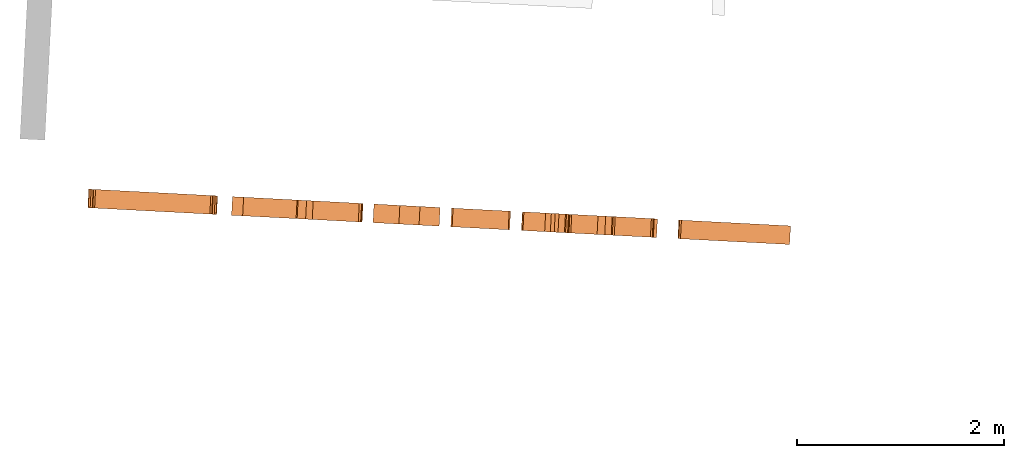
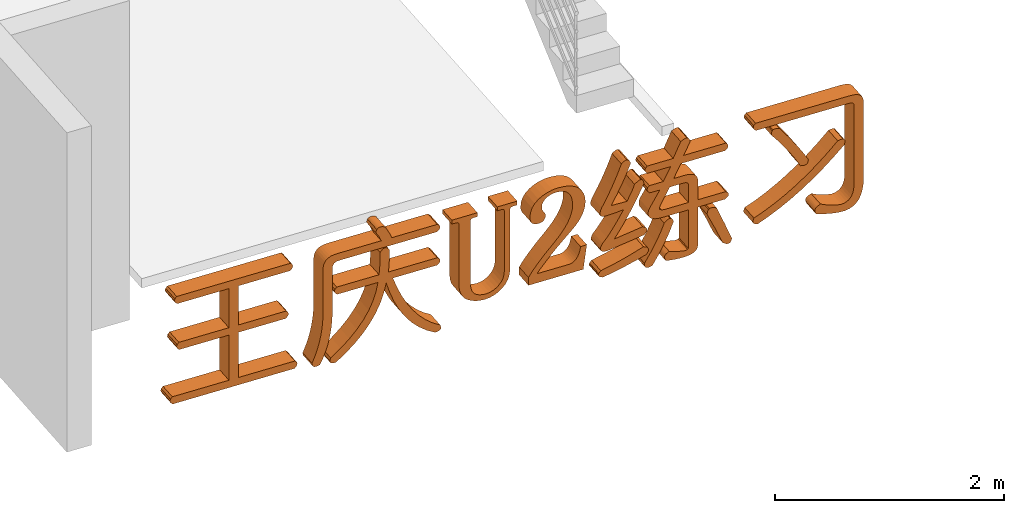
# One storey, part 16 of 16: 1 proxy.
"""IFC2X3 building model written with IfcOpenShell, lengths in millimetres."""

from ifc_helpers import new_model, entity, si_unit, converted_unit, derived_unit, direction, frame, origin, place, context, subcontext, project, spatial, polyline, outline, extrude, element, save


model = new_model("IFC2X3")

# Units and contexts
model_context = context("Model", 3, precision=0.01, world=origin(), true_north=direction((6.12303176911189e-17, 1.0)))
body_context = subcontext(model_context, "Body", "Model", "MODEL_VIEW")
ifc_project = project(units=[si_unit("LENGTHUNIT", "METRE", prefix="MILLI"), si_unit("AREAUNIT", "SQUARE_METRE"), si_unit("VOLUMEUNIT", "CUBIC_METRE"), converted_unit("PLANEANGLEUNIT", "DEGREE", entity("IfcRatioMeasure", 0.0174532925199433), si_unit("PLANEANGLEUNIT", "RADIAN"), dimensions=[0, 0, 0, 0, 0, 0, 0]), si_unit("MASSUNIT", "GRAM", prefix="KILO"), derived_unit("MASSDENSITYUNIT", [(si_unit("MASSUNIT", "GRAM", prefix="KILO"), 1), (si_unit("LENGTHUNIT", "METRE"), -3)]), si_unit("TIMEUNIT", "SECOND"), si_unit("FREQUENCYUNIT", "HERTZ"), si_unit("THERMODYNAMICTEMPERATUREUNIT", "DEGREE_CELSIUS"), derived_unit("THERMALTRANSMITTANCEUNIT", [(si_unit("MASSUNIT", "GRAM", prefix="KILO"), 1), (si_unit("THERMODYNAMICTEMPERATUREUNIT", "KELVIN"), -1), (si_unit("TIMEUNIT", "SECOND"), -3)]), derived_unit("VOLUMETRICFLOWRATEUNIT", [(si_unit("LENGTHUNIT", "METRE"), 3), (si_unit("TIMEUNIT", "SECOND"), -1)]), si_unit("ELECTRICCURRENTUNIT", "AMPERE"), si_unit("ELECTRICVOLTAGEUNIT", "VOLT"), si_unit("POWERUNIT", "WATT"), si_unit("FORCEUNIT", "NEWTON", prefix="KILO"), si_unit("ILLUMINANCEUNIT", "LUX"), si_unit("LUMINOUSFLUXUNIT", "LUMEN"), si_unit("LUMINOUSINTENSITYUNIT", "CANDELA"), derived_unit("USERDEFINED", [(si_unit("MASSUNIT", "GRAM", prefix="KILO"), -1), (si_unit("LENGTHUNIT", "METRE"), -2), (si_unit("TIMEUNIT", "SECOND"), 3), (si_unit("LUMINOUSFLUXUNIT", "LUMEN"), 1)]), derived_unit("LINEARVELOCITYUNIT", [(si_unit("LENGTHUNIT", "METRE"), 1), (si_unit("TIMEUNIT", "SECOND"), -1)]), si_unit("PRESSUREUNIT", "PASCAL"), derived_unit("USERDEFINED", [(si_unit("LENGTHUNIT", "METRE"), -2), (si_unit("MASSUNIT", "GRAM", prefix="KILO"), 1), (si_unit("TIMEUNIT", "SECOND"), -2)])], contexts=[model_context])

# Site, building, storey
site_placement = place(None, origin())
site = spatial("IfcSite", under=ifc_project, at=site_placement, Name="表面", CompositionType="ELEMENT")
building_placement = place(site_placement, origin())
building = spatial("IfcBuilding", under=site, at=building_placement, CompositionType="ELEMENT")
storey_placement = place(building_placement, frame((0.0, 0.0, 3000.0)))
storey = spatial("IfcBuildingStorey", under=building, at=storey_placement, Name="2F", CompositionType="ELEMENT", Elevation=3000.00000000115)

# Proxy
proxy_placement = place(storey_placement, origin())
element("IfcBuildingElementProxy", 1, at=proxy_placement, inside=storey, Name="模型文字:600mm Arial", ObjectType="模型文字:600mm Arial", context=body_context, shape_type="SweptSolid", body=[
    extrude(outline(polyline([(-554.261115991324, -554.191770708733), (559.770134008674, -554.191770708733), (577.822069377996, -535.107519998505), (583.29605730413, -515.670108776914), (576.192097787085, -495.87953704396), (556.51019082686, -475.735804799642), (49.0457021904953, -475.735804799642), (49.0457021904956, -59.3323957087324), (516.738884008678, -59.3323957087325), (534.790819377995, -40.2481449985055), (540.264807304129, -20.8107337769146), (533.160847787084, -1.02016204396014), (513.478940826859, 19.1235702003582), (49.0457021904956, 19.1235702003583), (49.0457021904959, 500.073854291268), (602.801384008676, 500.073854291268), (620.853319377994, 519.158105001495), (626.327307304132, 538.595516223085), (619.223347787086, 558.38608795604), (599.541440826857, 578.529820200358), (-593.815093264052, 578.529820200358), (-613.510583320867, 558.386087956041), (-620.655292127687, 538.595516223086), (-615.249219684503, 519.158105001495), (-597.292365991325, 500.073854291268), (-43.3193546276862, 500.073854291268), (-43.3193546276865, 19.1235702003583), (-529.26821826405, 19.1235702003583), (-548.96370832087, -1.02016204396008), (-556.108417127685, -20.8107337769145), (-550.702344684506, -40.2481449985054), (-532.745490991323, -59.3323957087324), (-43.3193546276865, -59.3323957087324), (-43.3193546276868, -475.735804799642), (-550.783843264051, -475.735804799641), (-570.479333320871, -495.87953704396), (-577.624042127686, -515.670108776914), (-572.217969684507, -535.107519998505), (-554.261115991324, -554.191770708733)])), frame((-25983.7933146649, -1529.46362849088, 857.213136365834), z_axis=(0.0523359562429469, 0.998629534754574, 0.0), x_axis=(0.998629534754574, -0.0523359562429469, 0.0)), (0.0, 0.0, 1.0), 180.0),
    extrude(outline(polyline([(-300.908917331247, -533.948927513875), (-207.279821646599, -533.948927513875), (-150.41816517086, -528.360519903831), (53.9838462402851, -923.985651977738), (81.3922286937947, -935.280936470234), (92.5072160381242, -935.672976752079), (101.896067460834, -932.561282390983), (109.558782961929, -925.945853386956), (115.495362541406, -915.82668973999), (122.190113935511, -885.077158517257), (-318.935163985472, -31.2683083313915), (-327.883251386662, -5.60411989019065), (-326.496293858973, 16.7462236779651), (-314.774291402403, 35.7827223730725), (-292.717244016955, 51.5053761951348), (127.439360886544, 268.046604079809), (201.049922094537, 310.588145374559), (269.290431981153, 355.400548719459), (332.160890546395, 402.483814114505), (389.661297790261, 451.8379415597), (441.791653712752, 503.462931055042), (488.551958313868, 557.358782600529), (529.942211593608, 613.525496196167), (520.952159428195, 647.408709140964), (514.275874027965, 659.095358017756), (506.145415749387, 667.27870183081), (496.560784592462, 671.958740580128), (485.521980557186, 673.135474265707), (459.081853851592, 664.979026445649), (415.728380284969, 611.524668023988), (368.347877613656, 560.538163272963), (316.940345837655, 512.019512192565), (261.505784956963, 465.968714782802), (202.044194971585, 422.385771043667), (138.555575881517, 381.270680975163), (71.0399276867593, 342.623444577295), (-344.574972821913, 128.677158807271), (-370.506365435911, 112.951823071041), (-390.955172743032, 95.4036330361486), (-405.921394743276, 76.0325887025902), (-415.405031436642, 54.8386900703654), (-419.406082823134, 31.8219371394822), (-417.924548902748, 6.9823299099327), (-410.960429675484, -19.6801316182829), (-398.513725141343, -48.1654474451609), (-197.503450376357, -437.225789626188), (-256.837339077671, -441.461803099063), (-314.150235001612, -436.825752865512), (-335.156657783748, -459.40541290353), (-339.580681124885, -471.120526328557), (-339.951912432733, -483.119162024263), (-336.270351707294, -495.401319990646), (-328.535998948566, -507.967000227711), (-300.908917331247, -533.948927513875)])), frame((-24835.5956187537, -1589.63811991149, 992.213629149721), z_axis=(0.0523359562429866, 0.998629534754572, 0.0), x_axis=(0.458383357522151, -0.0240228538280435, -0.888429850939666)), (0.0, 0.0, 1.0), 180.0),
    extrude(outline(polyline([(377.441309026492, -430.176951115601), (412.648331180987, -430.176951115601), (425.222511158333, -425.80717343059), (434.443803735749, -418.524210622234), (440.312208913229, -408.32806269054), (442.827726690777, -395.218729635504), (437.800100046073, -360.260508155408), (350.118229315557, -287.373277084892), (255.169704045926, -215.215851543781), (568.597450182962, 144.40705858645), (568.885428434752, 174.155914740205), (565.12697633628, 184.661268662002), (558.766896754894, 192.253906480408), (549.8051896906, 196.933828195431), (538.241855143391, 198.701033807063), (507.310303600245, 193.497296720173), (224.29718613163, -131.228264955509), (164.612439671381, -22.8322078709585), (115.424930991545, 82.2167996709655), (76.7346600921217, 183.918757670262), (48.5416269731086, 282.273666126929), (30.8458316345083, 377.281525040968), (23.6472740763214, 468.94233441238), (26.9459542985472, 557.256094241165), (40.741872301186, 642.222804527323), (25.7553589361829, 667.284170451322), (16.9839180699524, 673.820778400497), (7.36035441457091, 676.361336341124), (-3.11533202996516, 674.905844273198), (-14.4431412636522, 669.454302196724), (-39.6551280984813, 646.563068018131), (-56.6472323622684, 552.197358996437), (-61.7644405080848, 456.013623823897), (-55.0067525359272, 358.011862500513), (-36.3741684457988, 258.192075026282), (-5.86668823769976, 156.554261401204), (36.5156880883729, 53.0984216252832), (90.7729605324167, -52.1754443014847), (156.905129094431, -159.267336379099), (64.4925920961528, -111.013719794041), (-31.6195114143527, -73.6618143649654), (-131.431181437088, -47.2116200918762), (-234.942417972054, -31.6631369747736), (-342.153221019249, -27.0163650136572), (-453.063590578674, -33.2713042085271), (-567.673526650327, -50.42795455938), (-685.983029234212, -78.4863160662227), (-705.475079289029, -106.867237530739), (-709.438780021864, -118.935132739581), (-709.547597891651, -129.587984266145), (-705.80153289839, -138.825792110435), (-698.20058504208, -146.648556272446), (-671.434040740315, -158.048953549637), (-554.024304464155, -132.170353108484), (-441.60190628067, -116.665703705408), (-334.166846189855, -111.535005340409), (-231.719124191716, -116.778258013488), (-134.258740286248, -132.395461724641), (-41.7856944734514, -158.38661647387), (45.7000132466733, -194.751722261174), (128.198382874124, -241.490779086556), (-134.538315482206, -542.951441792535), (-132.354579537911, -570.980655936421), (-122.149900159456, -589.351926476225), (-103.924277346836, -598.065253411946), (-77.6777111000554, -597.120636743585), (194.483238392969, -284.846711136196), (276.160941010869, -345.438010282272), (377.441309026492, -430.176951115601)])), frame((-24472.8659385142, -1608.64797693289, 679.707863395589), z_axis=(0.0523359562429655, 0.998629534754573, 0.0), x_axis=(0.656127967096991, -0.0343862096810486, 0.753865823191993)), (0.0, 0.0, 1.0), 180.0),
    extrude(outline(polyline([(-33.2104136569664, -403.538470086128), (-64.8456446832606, -398.299267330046), (-93.1117745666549, -388.890186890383), (-118.008803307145, -375.311228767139), (-139.536730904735, -357.562392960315), (-156.234013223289, -333.176068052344), (-166.639106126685, -299.684642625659), (-170.75200961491, -257.088116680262), (-168.572723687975, -205.386490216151), (-108.785084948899, 426.174824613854), (-105.51239348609, 439.126808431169), (-98.5618317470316, 447.69204933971), (-88.3456419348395, 452.127874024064), (-75.2760662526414, 452.691609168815), (-36.7635914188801, 449.045771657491), (-32.8310026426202, 490.58731754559), (-282.080277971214, 514.182850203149), (-286.012866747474, 472.64130431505), (-247.500391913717, 468.995466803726), (-232.324457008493, 465.866981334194), (-223.578229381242, 459.963504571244), (-219.803499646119, 450.546664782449), (-219.542058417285, 436.878090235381), (-279.247768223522, -193.817775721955), (-280.053007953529, -252.839773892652), (-270.568549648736, -304.199319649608), (-250.794393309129, -347.896412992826), (-237.04867837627, -366.871540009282), (-220.730538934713, -383.931053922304), (-183.661941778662, -412.70174642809), (-142.873557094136, -434.606994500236), (-98.3653848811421, -449.64679813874), (-50.1374251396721, -457.821157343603), (-3.3656121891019, -458.101153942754), (41.7504506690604, -449.928961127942), (85.2107634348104, -433.304578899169), (127.015326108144, -408.228007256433), (163.544561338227, -375.46174363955), (191.178891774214, -335.768285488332), (209.918317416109, -289.14763280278), (219.762838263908, -235.599785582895), (278.956492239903, 389.687024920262), (282.062909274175, 402.900338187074), (288.432718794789, 411.384118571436), (297.679281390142, 415.666145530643), (309.415957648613, 416.274198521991), (350.957503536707, 412.341609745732), (354.890092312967, 453.88315563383), (161.029544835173, 472.23523658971), (157.096956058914, 430.693690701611), (198.638501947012, 426.761101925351), (212.35911243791, 423.824962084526), (220.201162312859, 418.170806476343), (223.489077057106, 408.800051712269), (223.547282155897, 394.714114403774), (164.251217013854, -231.654507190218), (157.029696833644, -271.690867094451), (143.394171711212, -306.985957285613), (123.344641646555, -337.539777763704), (96.8811066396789, -363.352328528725), (66.4974835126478, -383.445399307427), (34.6876890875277, -396.840779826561), (1.45172336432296, -403.538470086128), (-33.2104136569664, -403.538470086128)])), frame((-23520.0904698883, -1658.58082339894, 882.194770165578), z_axis=(-0.0523359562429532, -0.998629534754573, 0.0), x_axis=(0.994184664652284, -0.0521030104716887, 0.0942450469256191)), (0.0, 0.0, -1.0), 180.0),
    extrude(outline(polyline([(108.107262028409, -149.221058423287), (70.5827258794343, -144.445736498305), (32.2179742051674, -134.303618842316), (-6.98699299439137, -118.794705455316), (-47.0321757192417, -97.9189963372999), (-87.8856621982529, -71.3517786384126), (-129.515540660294, -38.7683395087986), (-171.921811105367, -0.168678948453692), (-215.104473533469, 44.4472030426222), (-305.545151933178, 142.955836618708), (-382.811711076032, 220.314720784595), (-446.993488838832, 277.834940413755), (-498.179823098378, 316.827580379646), (-581.285063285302, 321.513000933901), (-611.428343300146, -213.137943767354), (-363.419023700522, -261.948499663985), (-359.981417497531, -200.975725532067), (-397.251263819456, -192.044932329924), (-428.749319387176, -180.881871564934), (-454.47558420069, -167.486543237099), (-474.430058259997, -151.858947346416), (-489.227438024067, -134.767103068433), (-499.482419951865, -116.979029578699), (-505.195004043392, -98.494726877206), (-506.365190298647, -79.3141949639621), (-488.773454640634, 232.710179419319), (-449.547854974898, 198.745371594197), (-377.198389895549, 126.833483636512), (-275.902019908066, 17.2100099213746), (-149.835705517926, -129.88955517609), (-120.725299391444, -163.011981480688), (-90.5744781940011, -191.676316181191), (-59.3832419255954, -215.882559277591), (-27.1515905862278, -235.630710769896), (5.7239311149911, -251.197716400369), (38.8467784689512, -262.860521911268), (72.2169514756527, -270.619127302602), (105.834450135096, -274.473532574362), (150.673815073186, -272.933751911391), (192.756316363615, -263.10294998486), (232.081954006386, -244.981126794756), (268.650728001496, -218.568282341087), (299.939262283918, -183.014707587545), (323.424180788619, -137.470693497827), (339.105483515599, -81.9362400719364), (346.983170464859, -16.4113473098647), (346.021484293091, 33.2522912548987), (337.447860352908, 81.3451999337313), (321.262298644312, 127.867378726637), (297.4647991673, 172.818827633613), (266.653038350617, 211.839565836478), (229.424692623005, 240.569612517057), (185.779761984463, 259.008967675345), (135.718246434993, 267.157631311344), (113.165312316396, 266.980254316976), (93.6771713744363, 263.732292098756), (77.2538236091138, 257.413744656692), (63.8952690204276, 248.024611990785), (53.4120479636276, 236.065343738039), (45.6147007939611, 222.036389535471), (38.0776281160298, 187.769423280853), (40.8292296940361, 158.391464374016), (52.8030105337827, 136.221015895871), (73.541338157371, 121.828065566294), (102.586580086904, 115.782601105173), (121.484712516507, 119.4243513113), (143.027546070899, 132.331424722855), (169.398295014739, 144.966303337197), (202.78017361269, 147.791469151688), (225.418322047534, 143.930257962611), (245.813060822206, 135.025755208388), (263.964389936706, 121.077960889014), (279.872309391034, 102.086875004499), (292.598455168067, 79.5066826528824), (301.204463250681, 54.7915689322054), (305.690333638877, 27.9415338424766), (306.056066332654, -1.04342261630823), (300.968747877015, -38.1898449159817), (290.196477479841, -69.995631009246), (273.739255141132, -96.4607808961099), (251.597080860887, -117.585294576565), (223.890479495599, -133.403176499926), (190.739975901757, -143.9484311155), (152.14557007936, -149.221058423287), (108.107262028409, -149.221058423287)])), frame((-22810.9739379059, -1695.74404609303, 1034.05661986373), z_axis=(-0.0523359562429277, -0.998629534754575, 0.0), x_axis=(-0.0562128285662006, 0.00294598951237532, 0.998414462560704)), (0.0, 0.0, -1.0), 180.0),
    extrude(outline(polyline([(-198.208829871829, -51.3427610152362), (13.7565653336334, -51.3427610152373), (205.509101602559, -47.906730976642), (219.316216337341, -37.0541919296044), (228.498707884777, -26.0989981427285), (233.056576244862, -15.041149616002), (232.989821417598, -3.88064634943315), (228.298443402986, 7.38251165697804), (218.982442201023, 18.7483244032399), (186.476570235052, 41.7879141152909), (3.29617129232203, 42.9351515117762), (-194.350983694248, 50.116833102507), (-213.141219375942, 40.8277420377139), (-226.700596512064, 30.5691200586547), (-235.029115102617, 19.3409671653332), (-238.1267751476, 7.14328335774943), (-235.993576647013, -6.02393136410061), (-228.629519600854, -20.1606770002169), (-198.208829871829, -51.3427610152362)])), frame((-21233.1620973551, -1778.43366078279, 472.905373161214), z_axis=(0.052335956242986, 0.998629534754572, 0.0), x_axis=(0.379867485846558, -0.0199080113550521, -0.924826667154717)), (0.0, 0.0, 1.0), 180.0),
    extrude(outline(polyline([(128.813575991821, -179.921213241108), (164.641840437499, -179.921213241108), (177.875591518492, -175.729352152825), (187.98908850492, -168.742917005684), (194.982331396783, -158.961907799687), (198.85532019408, -146.386324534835), (197.240535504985, -112.851435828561), (120.570540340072, -39.8144899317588), (38.9477203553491, 32.5135441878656), (-47.6279244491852, 104.132666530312), (-139.156394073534, 175.042877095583), (-172.888449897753, 174.963841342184), (-184.598491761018, 171.213582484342), (-192.871209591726, 164.989496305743), (-197.706603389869, 156.291582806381), (-199.104673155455, 145.11984198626), (-191.588840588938, 115.354878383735), (-108.551554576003, 47.4026689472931), (-27.4720564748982, -24.4607494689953), (51.6496537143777, -100.23537686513), (128.813575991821, -179.921213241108)])), frame((-22170.0998275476, -1729.33083501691, 385.047451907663), z_axis=(0.0523359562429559, 0.998629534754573, 0.0), x_axis=(0.895761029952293, -0.0469448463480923, -0.442050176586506)), (0.0, 0.0, 1.0), 180.0),
    extrude(outline(polyline([(159.258118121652, -104.571927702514), (198.847765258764, -104.571927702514), (212.656375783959, -100.291375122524), (222.474177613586, -93.1571208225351), (228.301170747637, -83.1691648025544), (230.137355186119, -70.3275070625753), (227.98273092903, -54.6321476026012), (221.837297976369, -36.0830864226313), (121.287327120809, 12.4928503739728), (16.3321680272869, 55.5334055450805), (-93.0281793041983, 93.0385790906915), (-206.79371487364, 125.008371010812), (-238.464850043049, 104.024002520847), (-247.817411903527, 93.2225173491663), (-252.847969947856, 82.2148315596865), (-253.556524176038, 71.000945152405), (-249.943074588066, 59.5808581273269), (-229.750163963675, 36.1220822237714), (-120.850452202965, 6.12075449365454), (-19.7158346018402, -27.3286897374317), (73.6536888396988, -64.226250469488), (159.258118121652, -104.571927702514)])), frame((-21820.0185670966, -1747.67781644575, 490.861310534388), z_axis=(0.0523359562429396, 0.998629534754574, 0.0), x_axis=(0.739731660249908, -0.0387676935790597, 0.671784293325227)), (0.0, 0.0, 1.0), 180.0),
    extrude(outline(polyline([(278.276556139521, -372.702196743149), (315.348479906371, -372.702196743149), (328.548845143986, -368.310098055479), (338.192145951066, -360.989933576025), (344.278382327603, -350.741703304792), (346.8075542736, -337.565407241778), (341.19470487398, -302.428617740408), (249.546827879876, -247.45154727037), (154.186587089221, -195.724413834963), (55.1139825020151, -147.247217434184), (-47.6709858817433, -102.019958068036), (75.500599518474, -6.1379418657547), (173.4068700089, -53.9738593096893), (228.659114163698, -88.3360755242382), (272.364738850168, -88.3995300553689), (287.223529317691, -84.0232950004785), (297.419638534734, -76.7084183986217), (302.953066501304, -66.4549002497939), (303.823813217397, -53.2627405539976), (300.031878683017, -37.1319393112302), (291.577262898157, -18.0624965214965), (163.698471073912, 48.5985040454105), (32.6132396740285, 109.039348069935), (-101.678431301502, 163.260035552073), (-239.176541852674, 211.260566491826), (10.9970331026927, 342.621698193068), (22.3306842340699, 376.583951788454), (22.4376872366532, 390.203985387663), (18.8381418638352, 401.583290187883), (11.5320481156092, 410.72186618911), (0.51940599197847, 417.619713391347), (-32.6255233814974, 424.693221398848), (-352.787923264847, 255.665559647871), (-372.480903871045, 239.272459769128), (-385.940666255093, 223.803551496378), (-393.167210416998, 209.258834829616), (-394.16053635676, 195.638309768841), (-388.920644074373, 182.941976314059), (-377.447533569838, 171.169834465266), (-359.741204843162, 160.321884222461), (-335.801657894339, 150.398125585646), (-275.057341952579, 137.287553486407), (-198.422369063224, 113.963379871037), (-105.896739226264, 80.4256047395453), (2.51954755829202, 36.6742280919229), (-66.3298430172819, -4.27129370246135), (-150.794384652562, -62.362899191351), (-165.276295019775, -76.7799752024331), (-173.275752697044, -91.1358213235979), (-174.792757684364, -105.430437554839), (-169.827309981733, -119.663823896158), (-158.379409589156, -133.835980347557), (-140.449056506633, -147.946906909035), (-116.036250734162, -161.996603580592), (-19.6582490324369, -205.455940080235), (78.1865526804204, -255.05998444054), (177.498154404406, -310.808736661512), (278.276556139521, -372.702196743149)])), frame((-22193.53796517, -1728.10249427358, 973.665380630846), z_axis=(0.0523359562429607, 0.998629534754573, 0.0), x_axis=(0.803142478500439, -0.0420909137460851, 0.594298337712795)), (0.0, 0.0, 1.0), 180.0),
    extrude(outline(polyline([(251.987068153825, -554.944677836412), (291.397420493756, -554.944677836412), (305.623198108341, -550.717542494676), (316.19604335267, -543.672316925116), (323.115956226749, -533.809001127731), (326.382936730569, -521.127595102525), (325.996984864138, -505.628098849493), (321.958100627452, -487.310512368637), (209.079289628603, -401.471135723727), (582.025226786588, -222.200373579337), (589.967329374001, -197.11768520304), (586.394736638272, -177.238417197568), (571.307448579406, -162.56256956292), (544.705465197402, -153.090142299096), (150.800906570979, -342.435469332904), (28.505790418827, -249.547964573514), (122.721649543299, -204.259499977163), (151.974427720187, -188.14462323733), (175.289898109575, -170.776926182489), (192.668060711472, -152.156408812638), (204.108915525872, -132.283071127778), (209.612462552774, -111.15691312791), (209.178701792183, -88.7779348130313), (202.807633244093, -65.1461361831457), (111.315059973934, 124.469330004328), (357.138143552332, 242.633619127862), (369.147488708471, 269.852234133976), (369.841824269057, 280.988046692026), (366.995935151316, 290.47486262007), (360.609821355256, 298.312681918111), (350.68348288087, 304.501504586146), (320.210131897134, 311.932160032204), (77.3251728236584, 195.180193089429), (-98.4618612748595, 560.87875646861), (-114.93887262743, 583.846218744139), (-137.818249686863, 597.511864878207), (-167.099992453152, 601.875694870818), (-202.784100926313, 596.937708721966), (-244.870575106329, 582.697906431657), (-293.359414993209, 559.156287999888), (-348.250620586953, 526.312853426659), (-409.54419188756, 484.167602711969), (-407.472224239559, 452.580329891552), (-402.669879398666, 440.473463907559), (-395.356627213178, 430.824444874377), (-385.532467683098, 423.633272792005), (-373.197400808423, 418.899947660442), (-340.994545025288, 416.806838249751), (-275.608077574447, 480.684956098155), (-226.590175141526, 517.916578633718), (-208.219435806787, 526.539954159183), (-193.940837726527, 528.501705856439), (-183.754380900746, 523.801833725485), (-177.660065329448, 512.440337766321), (-5.9216881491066, 155.164397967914), (-226.085151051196, 49.33438922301), (-263.914473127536, 28.9423913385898), (-293.567953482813, 8.06465724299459), (-315.045592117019, -13.2988130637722), (-328.347389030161, -35.1480195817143), (-333.47334422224, -57.4829623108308), (-330.423457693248, -80.3036412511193), (-319.216092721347, -103.618883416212), (-299.796159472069, -127.40220776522), (-127.51420116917, -237.495549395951), (-216.441436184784, -280.241834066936), (-225.500938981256, -306.856321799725), (-223.378125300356, -327.764041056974), (-210.072995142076, -342.964991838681), (-185.585548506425, -352.459174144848), (-63.1636941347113, -293.612416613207), (62.657171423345, -384.805134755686), (-142.619793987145, -483.479377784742), (-151.679296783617, -510.093865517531), (-149.556483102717, -531.00158477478), (-136.251352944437, -546.202535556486), (-111.763906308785, -555.696717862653), (117.213930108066, -445.629742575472), (251.987068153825, -554.944677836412)]), holes=[polyline([(78.9380140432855, -138.256377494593), (-39.7622159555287, -195.314193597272), (-194.001805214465, -87.6402636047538), (-212.872986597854, -69.3879141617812), (-216.957451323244, -60.4361835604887), (-217.474498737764, -51.6007490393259), (-207.806341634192, -34.2787682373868), (-183.868515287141, -17.4219717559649), (28.0681990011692, 84.4535348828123), (102.638810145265, -70.6794389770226), (113.056942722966, -90.252170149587), (112.579520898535, -108.039236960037), (101.206544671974, -124.040639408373), (78.9380140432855, -138.256377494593)])]), frame((-21597.817038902, -1759.32290509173, 883.790109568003), z_axis=(0.052335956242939, 0.998629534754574, 0.0), x_axis=(0.900045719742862, -0.0471693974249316, 0.433235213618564)), (0.0, 0.0, 1.0), 180.0),
    extrude(outline(polyline([(429.497392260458, -269.476015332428), (467.886659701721, -269.476015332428), (481.013833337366, -265.130678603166), (490.096033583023, -257.888450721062), (495.133260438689, -247.749331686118), (496.125513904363, -234.713321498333), (485.975100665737, -199.950627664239), (368.178883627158, -120.403526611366), (250.811175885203, -48.0299342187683), (133.871977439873, 17.1701495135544), (17.3612882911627, 75.1967245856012), (-98.7208915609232, 126.049790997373), (-214.37456211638, 169.72934874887), (-329.599723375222, 206.23539784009), (-444.39637533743, 235.567938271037), (-470.603565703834, 221.362285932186), (-478.671011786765, 212.823857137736), (-483.381025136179, 203.328359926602), (-484.73360575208, 192.875794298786), (-482.728753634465, 181.466160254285), (-468.646751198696, 155.775686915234), (-358.301408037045, 128.718187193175), (-247.406729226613, 94.2038408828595), (-135.962714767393, 52.2326479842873), (-23.9693646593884, 2.80460849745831), (88.5733210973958, -54.0802775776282), (201.665342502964, -118.422010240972), (315.306699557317, -190.220589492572), (429.497392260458, -269.476015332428)])), frame((-20458.0994974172, -1819.05297045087, 678.21312351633), z_axis=(0.0523359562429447, 0.998629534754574, 0.0), x_axis=(0.986173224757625, -0.0516831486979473, 0.15745228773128)), (0.0, 0.0, 1.0), 180.0),
    extrude(outline(polyline([(188.00917991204, -163.98841372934), (207.267787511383, -163.98841372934), (222.485231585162, -161.029275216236), (233.66151213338, -155.110998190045), (240.796629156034, -146.23358265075), (243.890582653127, -134.397028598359), (242.91287718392, -119.603351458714), (228.92546199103, -81.1325353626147), (94.7855270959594, 4.76043766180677), (-22.8031751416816, 75.4392232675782), (-123.840644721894, 130.903821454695), (-208.326881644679, 171.154232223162), (-234.775320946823, 164.546526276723), (-243.602159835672, 157.888485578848), (-249.497411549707, 148.994319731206), (-252.461076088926, 137.864028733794), (-252.49315345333, 124.497612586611), (-243.762546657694, 91.0564048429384), (-132.082325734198, 35.6281561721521), (-22.8936309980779, -25.3553964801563), (83.8035375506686, -91.8942531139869), (188.00917991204, -163.98841372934)])), frame((-20547.4439728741, -1814.37062490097, 1099.44031063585), z_axis=(0.0523359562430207, 0.99862953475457, 0.0), x_axis=(-0.0658551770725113, 0.00345132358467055, 0.997823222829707)), (0.0, 0.0, 1.0), 180.0),
    extrude(outline(polyline([(-784.758176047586, -710.19302024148), (138.240403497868, -710.193020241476), (171.586905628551, -708.345719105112), (200.124991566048, -702.803815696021), (223.854661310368, -693.567310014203), (242.775914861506, -680.636202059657), (256.888752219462, -664.010491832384), (266.193173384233, -643.690179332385), (270.689178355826, -619.675264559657), (270.376767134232, -591.965747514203), (270.376767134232, 265.616638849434), (261.731126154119, 324.723483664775), (247.312669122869, 375.23222833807), (227.121396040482, 417.14287286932), (201.157306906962, 450.455417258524), (169.420401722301, 475.169861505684), (131.910680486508, 491.286205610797), (88.628143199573, 498.804449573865), (39.5727898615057, 497.724593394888), (-15.8462442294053, 490.226724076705), (-73.2212442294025, 478.382263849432), (-132.552210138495, 462.191212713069), (-193.839141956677, 441.653570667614), (-204.936531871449, 412.31408203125), (-204.936531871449, 399.355807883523), (-201.282678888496, 387.538513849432), (-193.924036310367, 376.862199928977), (-182.877583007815, 367.326866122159), (-149.721244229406, 351.679138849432), (-95.2258607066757, 377.50060546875), (-43.2297669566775, 397.372675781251), (6.26703702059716, 411.295349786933), (53.2645512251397, 419.268627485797), (80.1726655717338, 416.249784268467), (103.848002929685, 408.71456143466), (124.290563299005, 396.662958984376), (141.500346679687, 380.094976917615), (155.477353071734, 359.010615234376), (166.221582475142, 333.409873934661), (173.733034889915, 303.292753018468), (178.01171031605, 268.659252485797), (178.01171031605, -581.099270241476), (178.921777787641, -603.253300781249), (170.78550292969, -619.077608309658), (153.602885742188, -628.572192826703), (127.373926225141, -631.737054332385), (-781.280903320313, -631.737054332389), (-800.976393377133, -651.880786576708), (-808.121102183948, -671.671358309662), (-802.715029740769, -691.108769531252), (-784.758176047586, -710.19302024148)])), frame((-20096.0297125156, -1838.02824382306, 744.24313683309), z_axis=(0.0523359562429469, 0.998629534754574, 0.0), x_axis=(0.998629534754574, -0.0523359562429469, 0.0)), (0.0, 0.0, 1.0), 180.0),
])

save(model, "model.ifc")
